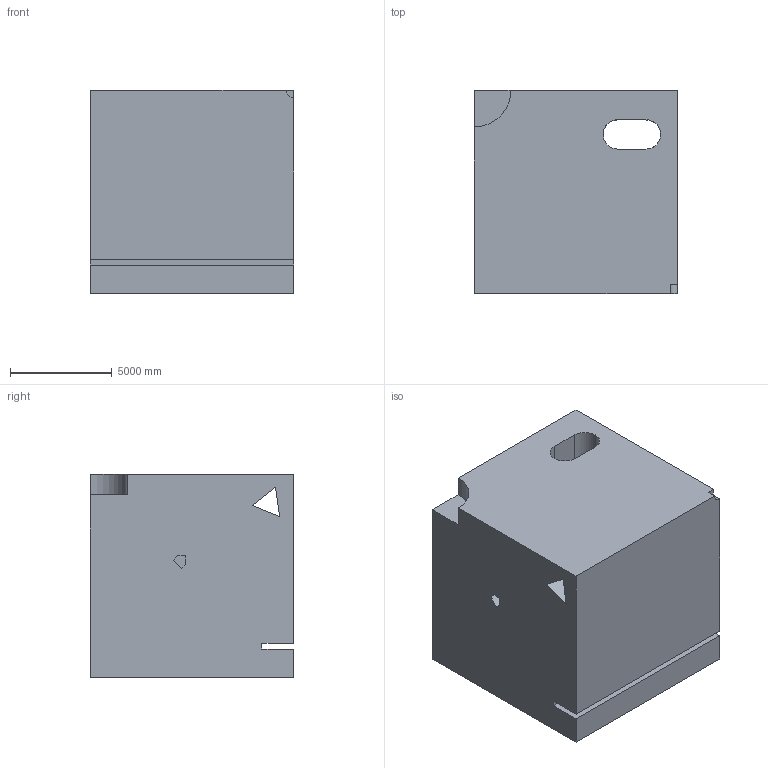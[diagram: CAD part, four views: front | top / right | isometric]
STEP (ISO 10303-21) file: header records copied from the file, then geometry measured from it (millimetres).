
FILE_DESCRIPTION (( 'STEP AP203' ), '1' );
FILE_NAME ('173.STEP', '2022-09-05T15:55:52', ( 'user' ), ( '' ), 'SwSTEP 2.0', 'SolidWorks 2021', '' );
FILE_SCHEMA (( 'CONFIG_CONTROL_DESIGN' ));
Length unit declared in the file: centimetre
Products named in the file (1): 173
Bounding box: 10000 x 10000 x 10000 mm (x, y, z)
Volume: 927582190939 mm3; surface area: 739873576.5 mm2
Topology: 1 solids, 1 shells, 37 faces, 105 edges, 70 vertices
Faces by surface type: plane 32, cylinder 5
Entity records: 1276 total; most frequent: CARTESIAN_POINT 213, ORIENTED_EDGE 210, DIRECTION 193, EDGE_CURVE 105, LINE 93, VECTOR 93, VERTEX_POINT 70, AXIS2_PLACEMENT_3D 50
